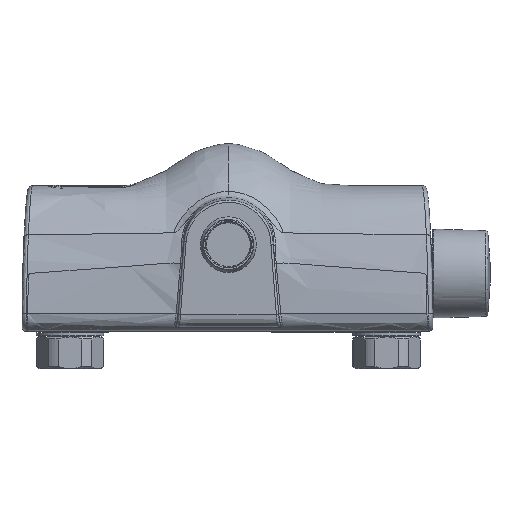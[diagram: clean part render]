
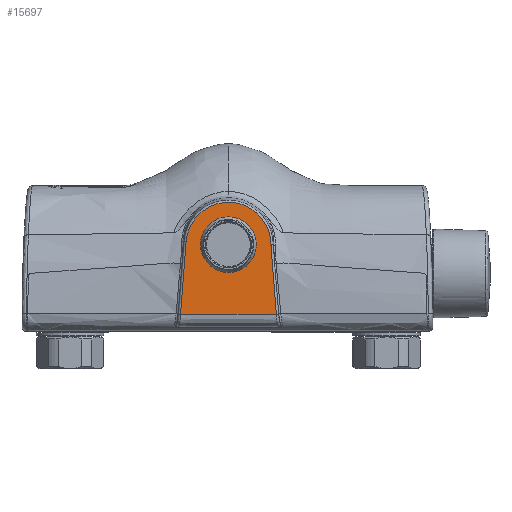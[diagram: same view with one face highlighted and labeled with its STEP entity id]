
A CAD part, front view. The second image highlights one B-rep face of the part: STEP entity #15697.
In plain terms, the highlighted planar face has unit normal (0, -1, 0).
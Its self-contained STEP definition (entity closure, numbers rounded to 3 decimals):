
#634 = CIRCLE ( 'NONE', #18529, 20.131 ) ;
#1317 = CARTESIAN_POINT ( 'NONE',  ( 22.723, -26.373, 24.997 ) ) ;
#1900 = PLANE ( 'NONE',  #11321 ) ;
#2777 = CARTESIAN_POINT ( 'NONE',  ( 22.845, -26.373, 23.42 ) ) ;
#3137 = FACE_BOUND ( 'NONE', #5525, .T. ) ;
#3153 = FACE_OUTER_BOUND ( 'NONE', #4632, .T. ) ;
#3282 = CARTESIAN_POINT ( 'NONE',  ( -22.723, -26.373, 24.997 ) ) ;
#3394 = DIRECTION ( 'NONE',  ( 0.763, 0., 0.646 ) ) ;
#4632 = EDGE_LOOP ( 'NONE', ( #17177, #17148, #17842, #16991 ) ) ;
#4912 = EDGE_CURVE ( 'NONE', #18614, #18614, #15964, .T. ) ;
#5290 = EDGE_CURVE ( 'NONE', #8377, #16311, #14895, .T. ) ;
#5525 = EDGE_LOOP ( 'NONE', ( #11097 ) ) ;
#5753 = DIRECTION ( 'NONE',  ( -0.077, 0., 0.997 ) ) ;
#5795 = CARTESIAN_POINT ( 'NONE',  ( 0.036, -26.38, 58.044 ) ) ;
#7237 = DIRECTION ( 'NONE',  ( 1., 0., 0. ) ) ;
#7388 = VERTEX_POINT ( 'NONE', #3282 ) ;
#7748 = VECTOR ( 'NONE', #18548, 1000. ) ;
#7809 = LINE ( 'NONE', #8694, #7748 ) ;
#8106 = CARTESIAN_POINT ( 'NONE',  ( 0., -26.38, 58.069 ) ) ;
#8377 = VERTEX_POINT ( 'NONE', #14992 ) ;
#8651 = CARTESIAN_POINT ( 'NONE',  ( -7.574, -26.373, 24.997 ) ) ;
#8694 = CARTESIAN_POINT ( 'NONE',  ( -23.133, -26.372, 19.713 ) ) ;
#9584 = DIRECTION ( 'NONE',  ( 0., 0., 1. ) ) ;
#10136 = CARTESIAN_POINT ( 'NONE',  ( 7.574, -26.373, 24.997 ) ) ;
#11097 = ORIENTED_EDGE ( 'NONE', *, *, #4912, .F. ) ;
#11303 = CARTESIAN_POINT ( 'NONE',  ( -20.034, -26.381, 59.604 ) ) ;
#11321 = AXIS2_PLACEMENT_3D ( 'NONE', #17646, #12168, #3394 ) ;
#11417 = AXIS2_PLACEMENT_3D ( 'NONE', #8106, #17996, #9584 ) ;
#11613 = EDGE_CURVE ( 'NONE', #16952, #7388, #7809, .T. ) ;
#12168 = DIRECTION ( 'NONE',  ( 0., 1., 0. ) ) ;
#12511 = CARTESIAN_POINT ( 'NONE',  ( 20.166, -26.38, 57.909 ) ) ;
#14690 = CARTESIAN_POINT ( 'NONE',  ( 0., -26.383, 71.289 ) ) ;
#14895 = LINE ( 'NONE', #2777, #14918 ) ;
#14918 = VECTOR ( 'NONE', #5753, 1000. ) ;
#14992 = CARTESIAN_POINT ( 'NONE',  ( 22.723, -26.373, 24.997 ) ) ;
#15697 = ADVANCED_FACE ( 'NONE', ( #3137, #3153 ), #1900, .F. ) ;
#15774 = DIRECTION ( 'NONE',  ( 0., -1., 0. ) ) ;
#15964 = CIRCLE ( 'NONE', #11417, 13.22 ) ;
#16311 = VERTEX_POINT ( 'NONE', #12511 ) ;
#16952 = VERTEX_POINT ( 'NONE', #11303 ) ;
#16991 = ORIENTED_EDGE ( 'NONE', *, *, #11613, .T. ) ;
#17110 = CARTESIAN_POINT ( 'NONE',  ( -22.723, -26.373, 24.997 ) ) ;
#17148 = ORIENTED_EDGE ( 'NONE', *, *, #5290, .T. ) ;
#17177 = ORIENTED_EDGE ( 'NONE', *, *, #17838, .T. ) ;
#17409 = B_SPLINE_CURVE_WITH_KNOTS ( 'NONE', 3,
 ( #17110, #8651, #10136, #1317 ),
 .UNSPECIFIED., .F., .F.,
 ( 4, 4 ),
 ( 0.018, 0.982 ),
 .UNSPECIFIED. ) ;
#17646 = CARTESIAN_POINT ( 'NONE',  ( -24., -26.372, 19.781 ) ) ;
#17838 = EDGE_CURVE ( 'NONE', #7388, #8377, #17409, .T. ) ;
#17842 = ORIENTED_EDGE ( 'NONE', *, *, #17883, .T. ) ;
#17883 = EDGE_CURVE ( 'NONE', #16311, #16952, #634, .T. ) ;
#17996 = DIRECTION ( 'NONE',  ( 0., -1., 0. ) ) ;
#18529 = AXIS2_PLACEMENT_3D ( 'NONE', #5795, #15774, #7237 ) ;
#18548 = DIRECTION ( 'NONE',  ( -0.077, 0., -0.997 ) ) ;
#18614 = VERTEX_POINT ( 'NONE', #14690 ) ;
